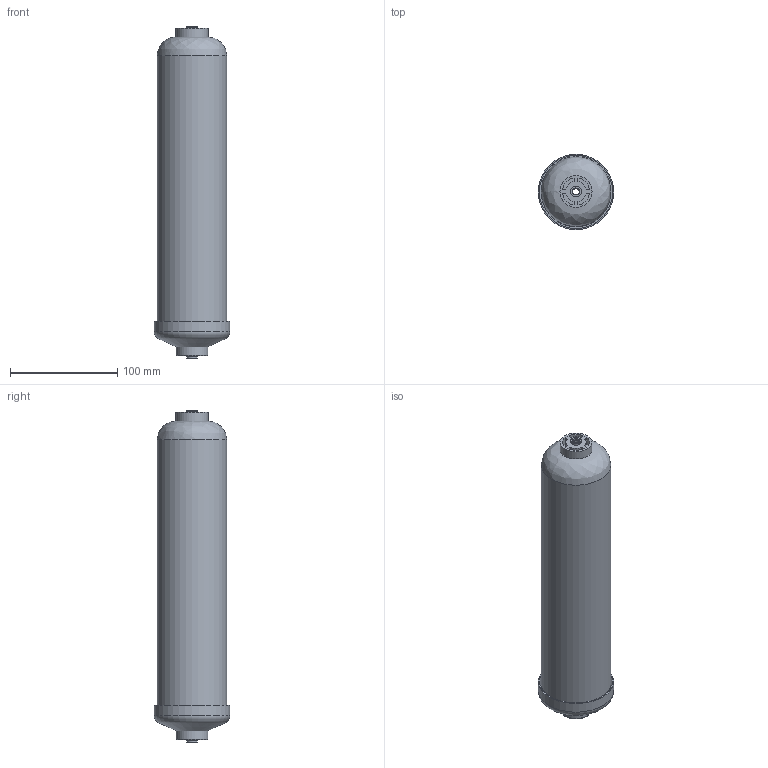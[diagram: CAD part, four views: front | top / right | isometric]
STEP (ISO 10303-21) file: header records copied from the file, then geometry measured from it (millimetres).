
FILE_DESCRIPTION(/* description */ (''),/* implementation_level */ '2;1');
FILE_NAME(/* name */ 'Air Volume Tank .step',/* time_stamp */ '2022-12-29T16:08:36-08:00',/* author */ (''),/* organization */ (''),/* preprocessor_version */ 'ST-DEVELOPER v19.2',/* originating_system */ 'Autodesk Translation Framework v11.17.0.187',/* authorisation */ '');
FILE_SCHEMA (('AUTOMOTIVE_DESIGN { 1 0 10303 214 3 1 1 }'));
Length unit declared in the file: millimetre
Products named in the file (5): Air Volume Tank; avt-pp-35_01; avt-pp-35_02; avt-pp-35_03; avt-pp-35_04
Assembly tree (4 placements, depth 2):
  Air Volume Tank
    avt-pp-35_01
    avt-pp-35_02
    avt-pp-35_03
    avt-pp-35_04
Bounding box: 70.61 x 70.61 x 310.25 mm (x, y, z)
Volume: 265124.2 mm3; surface area: 130982.5 mm2
Topology: 4 solids, 4 shells, 170 faces, 401 edges, 257 vertices
Faces by surface type: plane 98, cylinder 47, cone 12, torus 11, bspline 2
Full cylindrical faces by diameter (mm): 6.553 x2, 7.239 x4, 10.084 x2, 29.464 x1, 29.921 x1, 53.848 x1, 56.388 x2, 57.15 x2, 58.928 x1, 59.055 x1, 60.706 x1, 61.595 x1, 64.516 x1, 65.024 x1, 68.326 x1, 70.612 x1
Entity records: 6858 total; most frequent: CARTESIAN_POINT 2492, DIRECTION 907, ORIENTED_EDGE 802, EDGE_CURVE 401, AXIS2_PLACEMENT_3D 356, VERTEX_POINT 257, EDGE_LOOP 196, LINE 195
